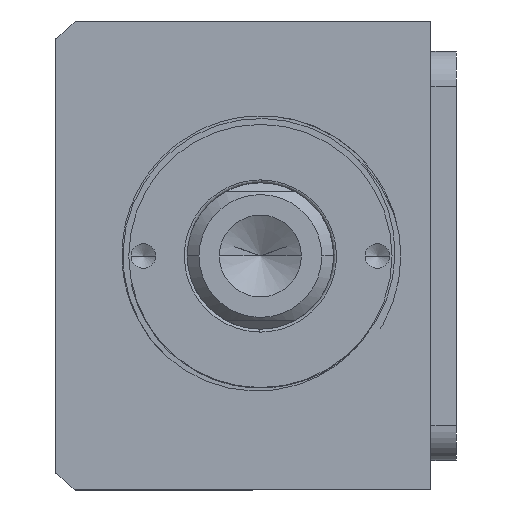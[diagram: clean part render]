
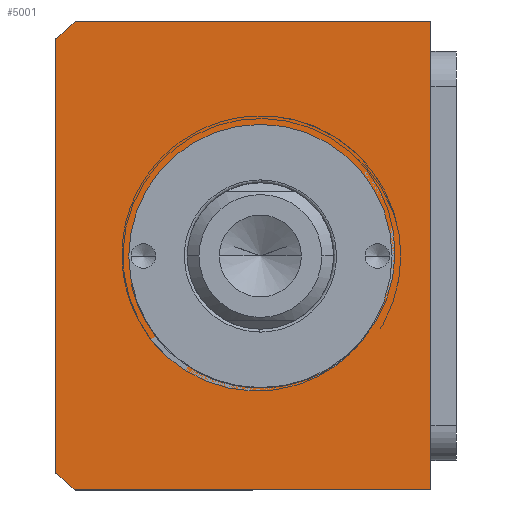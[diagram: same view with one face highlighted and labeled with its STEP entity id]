
A CAD part, front view. The second image highlights one B-rep face of the part: STEP entity #5001.
In plain terms, the highlighted planar face has unit normal (0, -1, 0) as drawn and (0, 0, 1) by its records, which use the part's own axes.
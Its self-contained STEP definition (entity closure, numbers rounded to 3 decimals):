
#93 = CARTESIAN_POINT ( 'NONE',  ( 40., -28.639, 115. ) ) ;
#128 = ORIENTED_EDGE ( 'NONE', *, *, #5084, .T. ) ;
#380 = CARTESIAN_POINT ( 'NONE',  ( -37.094, -32., 115. ) ) ;
#488 = CIRCLE ( 'NONE', #4052, 51. ) ;
#522 = VERTEX_POINT ( 'NONE', #2193 ) ;
#698 = CARTESIAN_POINT ( 'NONE',  ( -40., 32., 115. ) ) ;
#1023 = VERTEX_POINT ( 'NONE', #380 ) ;
#1110 = AXIS2_PLACEMENT_3D ( 'NONE', #4193, #9955, #5039 ) ;
#1416 = CARTESIAN_POINT ( 'NONE',  ( 22.5, 3., 115. ) ) ;
#1454 = DIRECTION ( 'NONE',  ( 0., 0., 1. ) ) ;
#1755 = CARTESIAN_POINT ( 'NONE',  ( 40., 32., 115. ) ) ;
#2062 = PLANE ( 'NONE',  #2939 ) ;
#2193 = CARTESIAN_POINT ( 'NONE',  ( 37.094, -32., 115. ) ) ;
#2203 = DIRECTION ( 'NONE',  ( 0., 1., 0. ) ) ;
#2428 = EDGE_CURVE ( 'NONE', #4117, #3259, #3408, .T. ) ;
#2748 = ORIENTED_EDGE ( 'NONE', *, *, #9704, .T. ) ;
#2939 = AXIS2_PLACEMENT_3D ( 'NONE', #3668, #8611, #7874 ) ;
#2965 = CIRCLE ( 'NONE', #1110, 22.5 ) ;
#3217 = AXIS2_PLACEMENT_3D ( 'NONE', #6457, #1454, #7283 ) ;
#3237 = FACE_BOUND ( 'NONE', #9044, .T. ) ;
#3259 = VERTEX_POINT ( 'NONE', #10451 ) ;
#3408 = LINE ( 'NONE', #1755, #5633 ) ;
#3668 = CARTESIAN_POINT ( 'NONE',  ( 0., 0., 115. ) ) ;
#4052 = AXIS2_PLACEMENT_3D ( 'NONE', #4720, #10461, #5557 ) ;
#4117 = VERTEX_POINT ( 'NONE', #93 ) ;
#4188 = EDGE_CURVE ( 'NONE', #1023, #522, #9106, .T. ) ;
#4193 = CARTESIAN_POINT ( 'NONE',  ( 0., 3., 115. ) ) ;
#4254 = VECTOR ( 'NONE', #4890, 1000. ) ;
#4589 = CARTESIAN_POINT ( 'NONE',  ( -22.5, 3., 115. ) ) ;
#4720 = CARTESIAN_POINT ( 'NONE',  ( 0., 3., 115. ) ) ;
#4791 = DIRECTION ( 'NONE',  ( 0., 0., 1. ) ) ;
#4890 = DIRECTION ( 'NONE',  ( 0., -1., 0. ) ) ;
#5001 = ADVANCED_FACE ( 'NONE', ( #3237, #5199 ), #2062, .T. ) ;
#5038 = CARTESIAN_POINT ( 'NONE',  ( -40., -28.639, 115. ) ) ;
#5039 = DIRECTION ( 'NONE',  ( 1., 0., 0. ) ) ;
#5084 = EDGE_CURVE ( 'NONE', #522, #4117, #488, .T. ) ;
#5143 = ORIENTED_EDGE ( 'NONE', *, *, #2428, .T. ) ;
#5199 = FACE_OUTER_BOUND ( 'NONE', #7669, .T. ) ;
#5417 = VERTEX_POINT ( 'NONE', #5038 ) ;
#5534 = VECTOR ( 'NONE', #10613, 1000. ) ;
#5557 = DIRECTION ( 'NONE',  ( 1., 0., 0. ) ) ;
#5562 = CIRCLE ( 'NONE', #3217, 51. ) ;
#5624 = CARTESIAN_POINT ( 'NONE',  ( -40., 32., 115. ) ) ;
#5633 = VECTOR ( 'NONE', #2203, 1000. ) ;
#6457 = CARTESIAN_POINT ( 'NONE',  ( 0., 3., 115. ) ) ;
#6536 = EDGE_CURVE ( 'NONE', #3259, #10625, #9885, .T. ) ;
#6695 = VECTOR ( 'NONE', #10128, 1000. ) ;
#7249 = CIRCLE ( 'NONE', #9353, 22.5 ) ;
#7283 = DIRECTION ( 'NONE',  ( 1., 0., 0. ) ) ;
#7510 = VERTEX_POINT ( 'NONE', #4589 ) ;
#7669 = EDGE_LOOP ( 'NONE', ( #2748, #7703, #8133, #128, #5143, #8630 ) ) ;
#7703 = ORIENTED_EDGE ( 'NONE', *, *, #10372, .T. ) ;
#7843 = EDGE_CURVE ( 'NONE', #8906, #7510, #2965, .T. ) ;
#7874 = DIRECTION ( 'NONE',  ( 1., 0., 0. ) ) ;
#8133 = ORIENTED_EDGE ( 'NONE', *, *, #4188, .T. ) ;
#8611 = DIRECTION ( 'NONE',  ( 0., 0., 1. ) ) ;
#8630 = ORIENTED_EDGE ( 'NONE', *, *, #6536, .T. ) ;
#8841 = ORIENTED_EDGE ( 'NONE', *, *, #7843, .F. ) ;
#8893 = LINE ( 'NONE', #5624, #4254 ) ;
#8906 = VERTEX_POINT ( 'NONE', #1416 ) ;
#9044 = EDGE_LOOP ( 'NONE', ( #8841, #9566 ) ) ;
#9106 = LINE ( 'NONE', #9328, #6695 ) ;
#9328 = CARTESIAN_POINT ( 'NONE',  ( -40., -32., 115. ) ) ;
#9353 = AXIS2_PLACEMENT_3D ( 'NONE', #9705, #4791, #10528 ) ;
#9531 = EDGE_CURVE ( 'NONE', #7510, #8906, #7249, .T. ) ;
#9566 = ORIENTED_EDGE ( 'NONE', *, *, #9531, .F. ) ;
#9704 = EDGE_CURVE ( 'NONE', #10625, #5417, #8893, .T. ) ;
#9705 = CARTESIAN_POINT ( 'NONE',  ( 0., 3., 115. ) ) ;
#9885 = LINE ( 'NONE', #698, #5534 ) ;
#9955 = DIRECTION ( 'NONE',  ( 0., 0., 1. ) ) ;
#10060 = CARTESIAN_POINT ( 'NONE',  ( -40., 32., 115. ) ) ;
#10128 = DIRECTION ( 'NONE',  ( 1., 0., 0. ) ) ;
#10372 = EDGE_CURVE ( 'NONE', #5417, #1023, #5562, .T. ) ;
#10451 = CARTESIAN_POINT ( 'NONE',  ( 40., 32., 115. ) ) ;
#10461 = DIRECTION ( 'NONE',  ( 0., 0., 1. ) ) ;
#10528 = DIRECTION ( 'NONE',  ( 1., 0., 0. ) ) ;
#10613 = DIRECTION ( 'NONE',  ( -1., 0., 0. ) ) ;
#10625 = VERTEX_POINT ( 'NONE', #10060 ) ;
